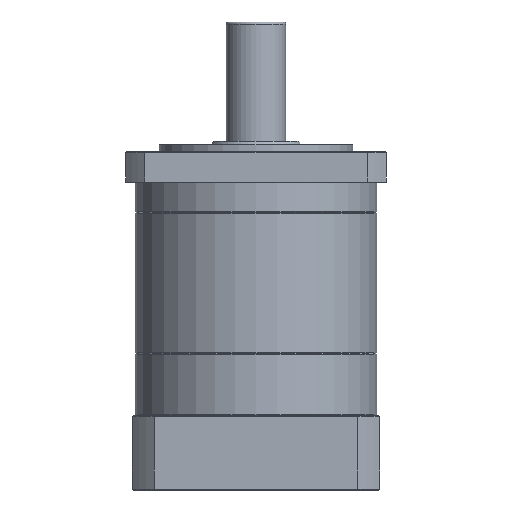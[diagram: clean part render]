
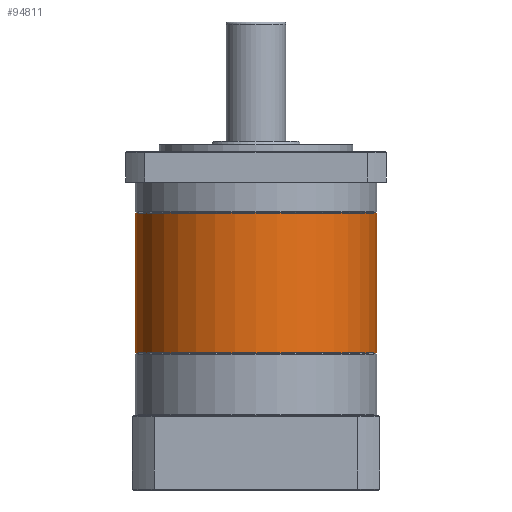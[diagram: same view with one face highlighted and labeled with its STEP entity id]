
A CAD part, front view. The second image highlights one B-rep face of the part: STEP entity #94811.
In plain terms, the highlighted cylindrical face has radius 81 mm (diameter 162 mm), a partial arc.
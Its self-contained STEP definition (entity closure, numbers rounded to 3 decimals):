
#3668 = VECTOR ( 'NONE', #43563, 1000. ) ;
#6287 = ORIENTED_EDGE ( 'NONE', *, *, #67211, .F. ) ;
#6778 = DIRECTION ( 'NONE',  ( 1., 0., 0. ) ) ;
#12123 = CARTESIAN_POINT ( 'NONE',  ( 267.54, 60.524, 8.655 ) ) ;
#21425 = VERTEX_POINT ( 'NONE', #88045 ) ;
#24458 = CARTESIAN_POINT ( 'NONE',  ( 267.54, 60.524, 102.655 ) ) ;
#25002 = CARTESIAN_POINT ( 'NONE',  ( 267.54, 60.524, 9.155 ) ) ;
#27104 = DIRECTION ( 'NONE',  ( 1., 0., 0. ) ) ;
#27864 = AXIS2_PLACEMENT_3D ( 'NONE', #76351, #45288, #6778 ) ;
#33622 = ORIENTED_EDGE ( 'NONE', *, *, #80385, .T. ) ;
#39628 = CARTESIAN_POINT ( 'NONE',  ( 105.54, 60.524, 8.655 ) ) ;
#39964 = FACE_OUTER_BOUND ( 'NONE', #66718, .T. ) ;
#42905 = VECTOR ( 'NONE', #92915, 1000. ) ;
#43563 = DIRECTION ( 'NONE',  ( 0., 0., 1. ) ) ;
#44732 = LINE ( 'NONE', #12123, #3668 ) ;
#45288 = DIRECTION ( 'NONE',  ( 0., 0., 1. ) ) ;
#49510 = CYLINDRICAL_SURFACE ( 'NONE', #93883, 81. ) ;
#51488 = CARTESIAN_POINT ( 'NONE',  ( 186.54, 60.524, 8.655 ) ) ;
#58457 = VERTEX_POINT ( 'NONE', #96988 ) ;
#60905 = VERTEX_POINT ( 'NONE', #24458 ) ;
#62111 = EDGE_CURVE ( 'NONE', #58457, #94422, #76153, .T. ) ;
#64784 = AXIS2_PLACEMENT_3D ( 'NONE', #86479, #88498, #27104 ) ;
#66718 = EDGE_LOOP ( 'NONE', ( #6287, #95043, #33622, #85829 ) ) ;
#67211 = EDGE_CURVE ( 'NONE', #58457, #21425, #91186, .T. ) ;
#67687 = DIRECTION ( 'NONE',  ( 0., 0., 1. ) ) ;
#76153 = CIRCLE ( 'NONE', #27864, 81. ) ;
#76351 = CARTESIAN_POINT ( 'NONE',  ( 186.54, 60.524, 9.155 ) ) ;
#80385 = EDGE_CURVE ( 'NONE', #94422, #60905, #44732, .T. ) ;
#81429 = CIRCLE ( 'NONE', #64784, 81. ) ;
#81867 = DIRECTION ( 'NONE',  ( 1., 0., 0. ) ) ;
#85829 = ORIENTED_EDGE ( 'NONE', *, *, #99818, .T. ) ;
#86479 = CARTESIAN_POINT ( 'NONE',  ( 186.54, 60.524, 102.655 ) ) ;
#88045 = CARTESIAN_POINT ( 'NONE',  ( 105.54, 60.524, 102.655 ) ) ;
#88498 = DIRECTION ( 'NONE',  ( 0., 0., -1. ) ) ;
#91186 = LINE ( 'NONE', #39628, #42905 ) ;
#92915 = DIRECTION ( 'NONE',  ( 0., 0., 1. ) ) ;
#93883 = AXIS2_PLACEMENT_3D ( 'NONE', #51488, #67687, #81867 ) ;
#94422 = VERTEX_POINT ( 'NONE', #25002 ) ;
#94811 = ADVANCED_FACE ( 'NONE', ( #39964 ), #49510, .T. ) ;
#95043 = ORIENTED_EDGE ( 'NONE', *, *, #62111, .T. ) ;
#96988 = CARTESIAN_POINT ( 'NONE',  ( 105.54, 60.524, 9.155 ) ) ;
#99818 = EDGE_CURVE ( 'NONE', #60905, #21425, #81429, .T. ) ;
